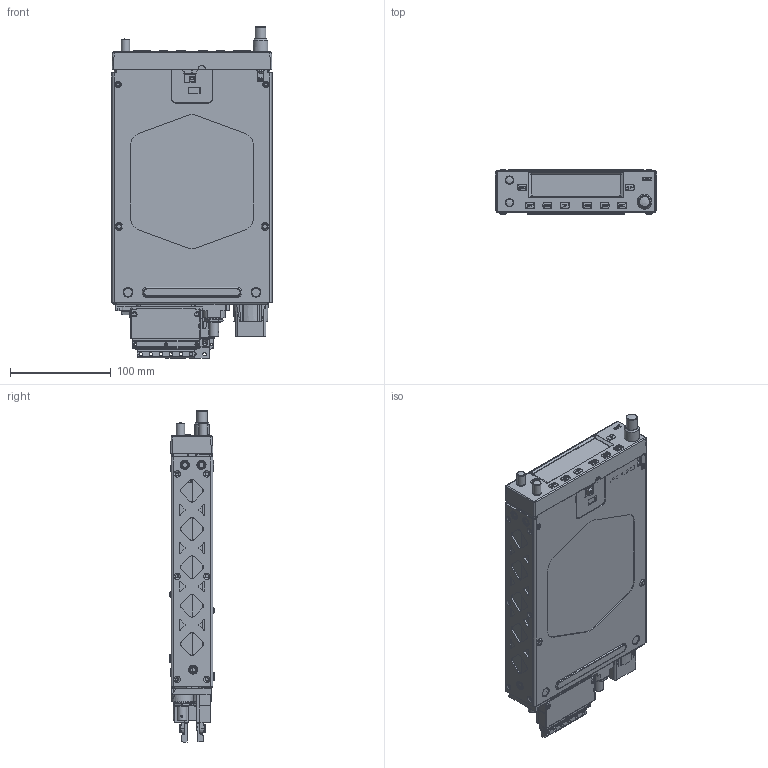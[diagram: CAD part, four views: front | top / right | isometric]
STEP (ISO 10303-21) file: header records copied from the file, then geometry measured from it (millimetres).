
FILE_DESCRIPTION (( 'STEP AP203' ), '1' );
FILE_NAME ('GTR225_GNC255_rev2.STEP', '2012-11-13T13:59:07', ( 'Garmin' ), ( 'Garmin' ), 'SwSTEP 2.0', 'SolidWorks 2012', '' );
FILE_SCHEMA (( 'CONFIG_CONTROL_DESIGN' ));
Products named in the file (1): GTR225_GNC255_rev2
Bounding box: 160.02 x 43.81 x 329.67 mm (x, y, z)
Volume: 1654047 mm3; surface area: 294631.6 mm2
Topology: 5 solids, 8 shells, 4218 faces, 11225 edges, 7290 vertices
Faces by surface type: plane 2216, bspline 1016, cylinder 709, cone 186, torus 80, sphere 11
Full cylindrical faces by diameter (mm): 1.397 x4, 1.587 x2, 1.778 x2, 2.032 x4, 2.261 x18, 2.459 x1, 2.54 x4, 2.794 x2, 2.896 x2, 3.264 x14, 3.302 x10, 3.353 x26, 3.454 x10, 3.81 x1, 4.572 x2, 4.699 x2, 5.588 x2, 5.844 x2, 7.29 x2, 7.62 x2, 8.128 x2, 8.255 x2, 9.144 x6, 9.576 x2, 10.668 x1, 11.049 x2, 12.7 x1, 13.919 x2, 14.732 x1, 15.138 x2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
Entity records: 176144 total; most frequent: CARTESIAN_POINT 79862, ORIENTED_EDGE 21530, DIRECTION 16427, EDGE_CURVE 10765, VERTEX_POINT 7152, VECTOR 6457, LINE 6457, EDGE_LOOP 5047
